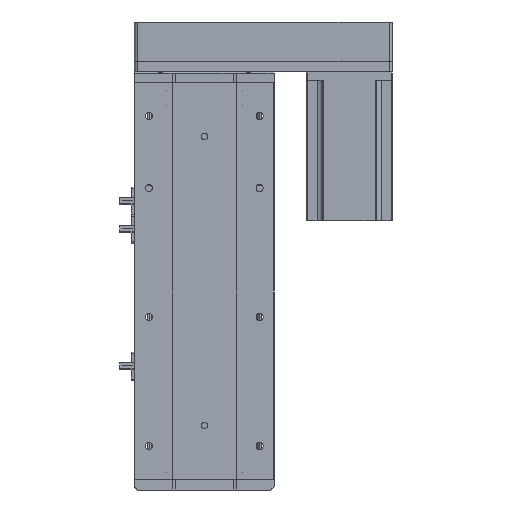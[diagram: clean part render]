
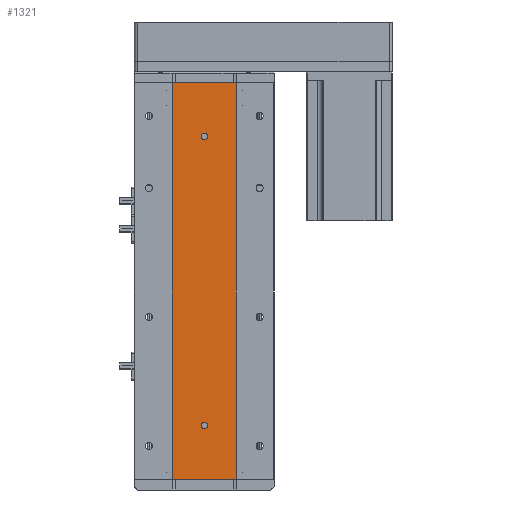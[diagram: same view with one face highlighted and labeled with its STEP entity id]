
A CAD part, left-side view. The second image highlights one B-rep face of the part: STEP entity #1321.
In plain terms, the highlighted planar face has unit normal (-1, 0, 0).
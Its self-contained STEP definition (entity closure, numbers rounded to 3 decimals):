
#129 = ORIENTED_EDGE ( 'NONE', *, *, #17937, .F. ) ;
#611 = CARTESIAN_POINT ( 'NONE',  ( -24.994, 0., 47. ) ) ;
#1321 = ADVANCED_FACE ( 'NONE', ( #17530, #25378, #32304 ), #4562, .F. ) ;
#1703 = EDGE_CURVE ( 'NONE', #33003, #3611, #9104, .T. ) ;
#2211 = EDGE_CURVE ( 'NONE', #21419, #3611, #18152, .T. ) ;
#2772 = CARTESIAN_POINT ( 'NONE',  ( -24.994, 0., 53. ) ) ;
#2774 = DIRECTION ( 'NONE',  ( 0., 0., 1. ) ) ;
#3540 = ORIENTED_EDGE ( 'NONE', *, *, #22689, .F. ) ;
#3611 = VERTEX_POINT ( 'NONE', #7960 ) ;
#3714 = AXIS2_PLACEMENT_3D ( 'NONE', #25220, #7646, #28178 ) ;
#4249 = EDGE_CURVE ( 'NONE', #19905, #33003, #34589, .T. ) ;
#4562 = PLANE ( 'NONE',  #25459 ) ;
#5023 = CARTESIAN_POINT ( 'NONE',  ( -24.994, 29.785, 369. ) ) ;
#6569 = ORIENTED_EDGE ( 'NONE', *, *, #37222, .F. ) ;
#7646 = DIRECTION ( 'NONE',  ( -1., 0., 0. ) ) ;
#7960 = CARTESIAN_POINT ( 'NONE',  ( -24.994, -29.785, 0. ) ) ;
#8278 = VERTEX_POINT ( 'NONE', #2772 ) ;
#8849 = CIRCLE ( 'NONE', #3714, 3. ) ;
#9104 = LINE ( 'NONE', #9651, #31616 ) ;
#9497 = VECTOR ( 'NONE', #30033, 1000. ) ;
#9651 = CARTESIAN_POINT ( 'NONE',  ( -24.994, 29.785, 0. ) ) ;
#12148 = DIRECTION ( 'NONE',  ( 0., -1., 0. ) ) ;
#13110 = AXIS2_PLACEMENT_3D ( 'NONE', #13979, #34559, #16930 ) ;
#13215 = VECTOR ( 'NONE', #12148, 1000. ) ;
#13506 = CARTESIAN_POINT ( 'NONE',  ( -24.994, 29.785, 369. ) ) ;
#13951 = DIRECTION ( 'NONE',  ( -1., 0., 0. ) ) ;
#13979 = CARTESIAN_POINT ( 'NONE',  ( -24.994, 0., 319. ) ) ;
#15252 = EDGE_LOOP ( 'NONE', ( #34777, #22126 ) ) ;
#15361 = CARTESIAN_POINT ( 'NONE',  ( -24.994, -29.785, 369. ) ) ;
#15649 = DIRECTION ( 'NONE',  ( 0., -1., 0. ) ) ;
#15797 = CIRCLE ( 'NONE', #20774, 3. ) ;
#16439 = DIRECTION ( 'NONE',  ( 0., 0., -1. ) ) ;
#16848 = CARTESIAN_POINT ( 'NONE',  ( -24.994, 0., 316. ) ) ;
#16930 = DIRECTION ( 'NONE',  ( 0., 0., 1. ) ) ;
#17222 = CARTESIAN_POINT ( 'NONE',  ( -24.994, 0., 322. ) ) ;
#17522 = ORIENTED_EDGE ( 'NONE', *, *, #2211, .F. ) ;
#17530 = FACE_BOUND ( 'NONE', #23840, .T. ) ;
#17610 = CARTESIAN_POINT ( 'NONE',  ( -24.994, 29.785, 0. ) ) ;
#17937 = EDGE_CURVE ( 'NONE', #19905, #21419, #21952, .T. ) ;
#18145 = VERTEX_POINT ( 'NONE', #611 ) ;
#18152 = LINE ( 'NONE', #15361, #9497 ) ;
#18829 = AXIS2_PLACEMENT_3D ( 'NONE', #31600, #13951, #34530 ) ;
#18889 = VERTEX_POINT ( 'NONE', #16848 ) ;
#19905 = VERTEX_POINT ( 'NONE', #5023 ) ;
#20288 = DIRECTION ( 'NONE',  ( -1., 0., 0. ) ) ;
#20564 = VERTEX_POINT ( 'NONE', #17222 ) ;
#20774 = AXIS2_PLACEMENT_3D ( 'NONE', #37901, #20288, #2774 ) ;
#21419 = VERTEX_POINT ( 'NONE', #30317 ) ;
#21952 = LINE ( 'NONE', #26773, #13215 ) ;
#22126 = ORIENTED_EDGE ( 'NONE', *, *, #26346, .F. ) ;
#22689 = EDGE_CURVE ( 'NONE', #18889, #20564, #37818, .T. ) ;
#23840 = EDGE_LOOP ( 'NONE', ( #6569, #3540 ) ) ;
#25220 = CARTESIAN_POINT ( 'NONE',  ( -24.994, 0., 50. ) ) ;
#25378 = FACE_BOUND ( 'NONE', #15252, .T. ) ;
#25459 = AXIS2_PLACEMENT_3D ( 'NONE', #13506, #34068, #16439 ) ;
#26188 = DIRECTION ( 'NONE',  ( 0., 0., -1. ) ) ;
#26346 = EDGE_CURVE ( 'NONE', #18145, #8278, #8849, .T. ) ;
#26763 = VECTOR ( 'NONE', #26188, 1000. ) ;
#26773 = CARTESIAN_POINT ( 'NONE',  ( -24.994, 29.785, 369. ) ) ;
#27142 = EDGE_LOOP ( 'NONE', ( #37377, #17522, #129, #33921 ) ) ;
#28178 = DIRECTION ( 'NONE',  ( 0., 0., 1. ) ) ;
#30033 = DIRECTION ( 'NONE',  ( 0., 0., -1. ) ) ;
#30317 = CARTESIAN_POINT ( 'NONE',  ( -24.994, -29.785, 369. ) ) ;
#31600 = CARTESIAN_POINT ( 'NONE',  ( -24.994, 0., 50. ) ) ;
#31616 = VECTOR ( 'NONE', #15649, 1000. ) ;
#32005 = CARTESIAN_POINT ( 'NONE',  ( -24.994, 29.785, 369. ) ) ;
#32157 = EDGE_CURVE ( 'NONE', #8278, #18145, #36419, .T. ) ;
#32304 = FACE_OUTER_BOUND ( 'NONE', #27142, .T. ) ;
#33003 = VERTEX_POINT ( 'NONE', #17610 ) ;
#33921 = ORIENTED_EDGE ( 'NONE', *, *, #4249, .T. ) ;
#34068 = DIRECTION ( 'NONE',  ( 1., 0., 0. ) ) ;
#34530 = DIRECTION ( 'NONE',  ( 0., 0., 1. ) ) ;
#34559 = DIRECTION ( 'NONE',  ( -1., 0., 0. ) ) ;
#34589 = LINE ( 'NONE', #32005, #26763 ) ;
#34777 = ORIENTED_EDGE ( 'NONE', *, *, #32157, .F. ) ;
#36419 = CIRCLE ( 'NONE', #18829, 3. ) ;
#37222 = EDGE_CURVE ( 'NONE', #20564, #18889, #15797, .T. ) ;
#37377 = ORIENTED_EDGE ( 'NONE', *, *, #1703, .T. ) ;
#37818 = CIRCLE ( 'NONE', #13110, 3. ) ;
#37901 = CARTESIAN_POINT ( 'NONE',  ( -24.994, 0., 319. ) ) ;
